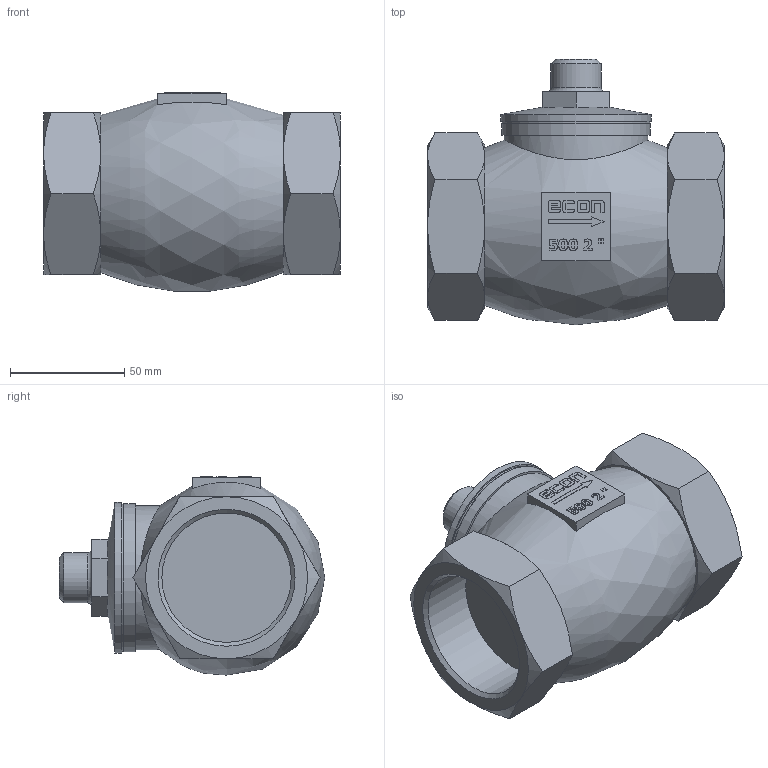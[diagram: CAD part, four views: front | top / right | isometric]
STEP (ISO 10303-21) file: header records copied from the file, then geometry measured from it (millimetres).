
FILE_DESCRIPTION(/* description */ ('Eriks item no: 11811313'),/* implementation_level */ '2;1');
FILE_NAME(/* name */ 'L:\DATA\ENG\Inventor\Econ 3D modellen\terugslagklep\500\500-050-PN16.stp',/* time_stamp */ '2023-12-06T15:56:10+01:00',/* author */ ('roger.thijssen'),/* organization */ (''),/* preprocessor_version */ 'ST-DEVELOPER v18',/* originating_system */ 'Autodesk Inventor 2020',/* authorisation */ '');
FILE_SCHEMA (('CONFIG_CONTROL_DESIGN'));
Length unit declared in the file: millimetre
Products named in the file (1): Check valve, 500-050-PN16
Bounding box: 130 x 116.27 x 86.86 mm (x, y, z)
Volume: 551522.8 mm3; surface area: 56314.4 mm2
Topology: 1 solids, 1 shells, 210 faces, 538 edges, 355 vertices
Faces by surface type: plane 114, bspline 47, cone 28, cylinder 20, torus 1
Full cylindrical faces by diameter (mm): 22 x1, 56.656 x2, 63 x1, 64.6 x1, 65 x1, 66 x1
Entity records: 6828 total; most frequent: CARTESIAN_POINT 2053, ORIENTED_EDGE 1076, DIRECTION 807, EDGE_CURVE 538, VERTEX_POINT 355, LINE 297, VECTOR 297, AXIS2_PLACEMENT_3D 255
